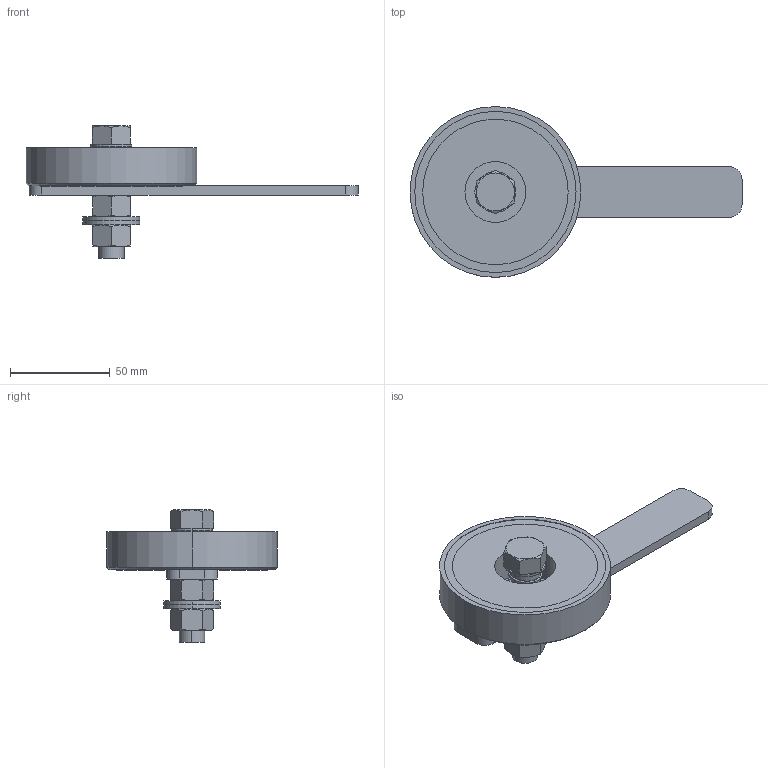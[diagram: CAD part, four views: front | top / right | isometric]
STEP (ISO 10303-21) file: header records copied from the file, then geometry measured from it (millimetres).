
FILE_DESCRIPTION (( 'STEP AP203' ), '1' );
FILE_NAME ('WG800.STEP', '2018-08-21T14:36:45', ( '' ), ( '' ), 'SwSTEP 2.0', 'SolidWorks 2015', '' );
FILE_SCHEMA (( 'CONFIG_CONTROL_DESIGN' ));
Length unit declared in the file: inch
Products named in the file (1): WG800
Bounding box: 166.69 x 85.72 x 66.4 mm (x, y, z)
Volume: 121842.3 mm3; surface area: 68083.4 mm2
Topology: 12 solids, 12 shells, 117 faces, 250 edges, 160 vertices
Faces by surface type: plane 51, cylinder 44, cone 16, bspline 6
Entity records: 10796 total; most frequent: CARTESIAN_POINT 8183, DIRECTION 532, ORIENTED_EDGE 500, EDGE_CURVE 250, AXIS2_PLACEMENT_3D 220, VERTEX_POINT 160, EDGE_LOOP 140, ADVANCED_FACE 117
